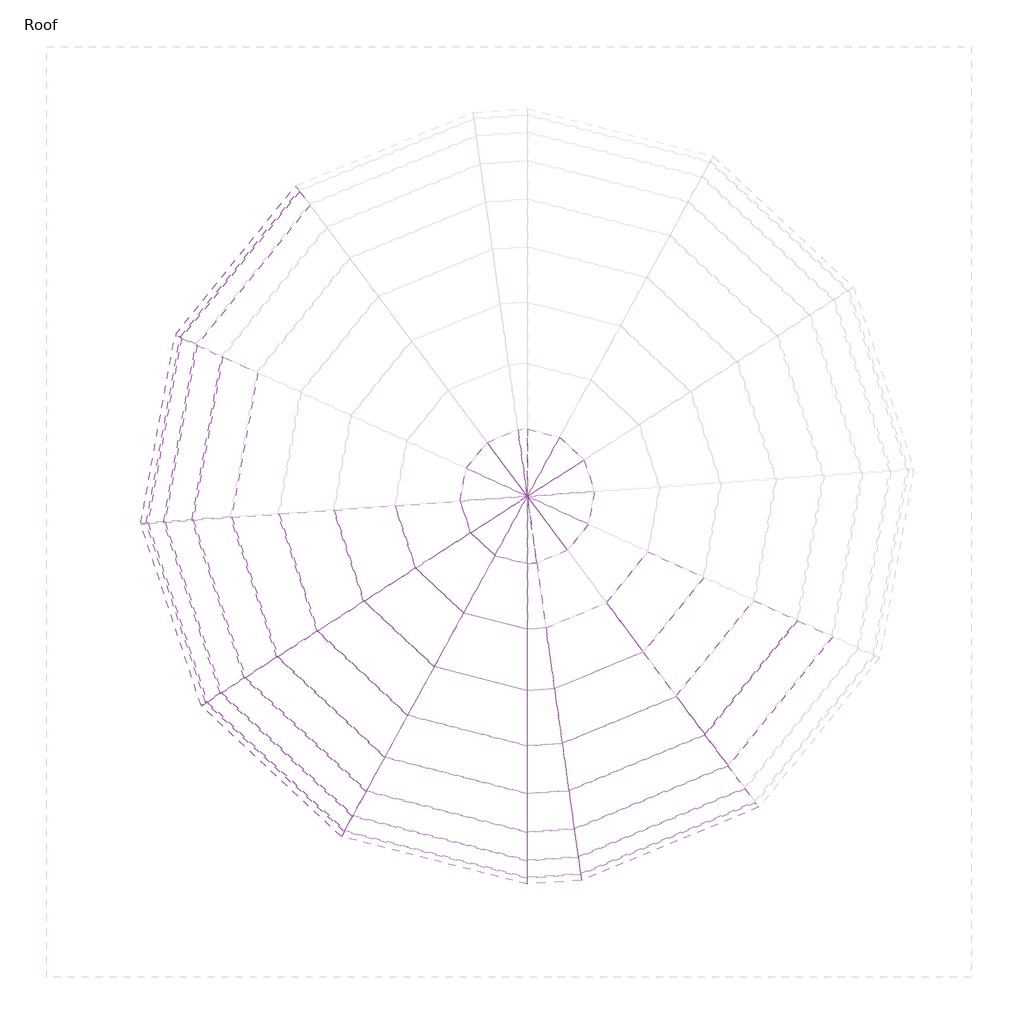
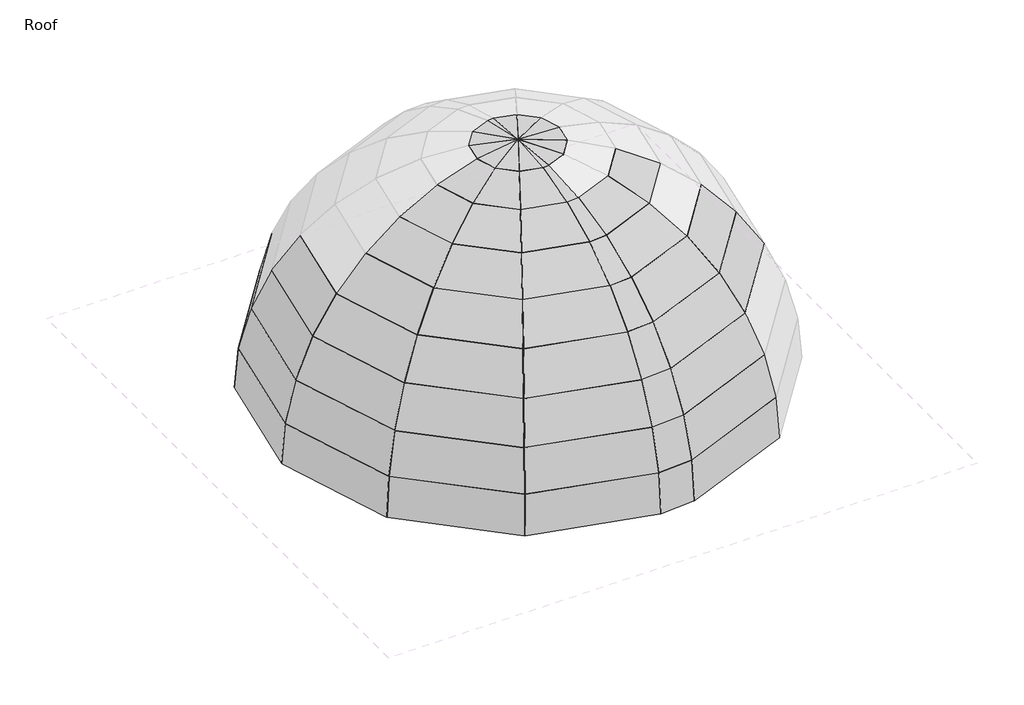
# One storey, part 1 of 2: 62 plates.
"""IFC4 building model written with IfcOpenShell, lengths in millimetres."""

from ifc_helpers import new_model, si_unit, origin, place, context, project, spatial, transform, mapped, element, save
from components import system_panel_glazed_2ed1c17a, system_panel_glazed_1428caac, system_panel_glazed_eae8c054, system_panel_glazed_1ae12ef8, system_panel_glazed_17d389aa, system_panel_glazed_e228eff2, system_panel_glazed_ea2c9918, system_panel_glazed_3e724de7, system_panel_glazed_405752de, system_panel_glazed_2f3c7a1b, system_panel_glazed_7985a11f, system_panel_glazed_b27e74bc, system_panel_glazed_a47debd1, system_panel_glazed_bc27ae0c, system_panel_glazed_ac83cff1, system_panel_glazed_0369cbda, system_panel_glazed_ca67373d, system_panel_glazed_91e01184, system_panel_glazed_642925df, system_panel_glazed_b00dac85, system_panel_glazed_7188ca77, system_panel_glazed_78ed8cde, system_panel_glazed_a47825d1, system_panel_glazed_b4261101, system_panel_glazed_62bcfb4b, system_panel_glazed_8d16cfce, system_panel_glazed_4963176a, system_panel_glazed_60e367e1, system_panel_glazed_c3d1ce98, system_panel_glazed_7ac646d2

model = new_model("IFC4")

# Units and contexts
model_context = context("Model", 3, world=origin())
ifc_project = project(units=[si_unit("LENGTHUNIT", "METRE", prefix="MILLI")], contexts=[model_context])

# Site, building, storey
site = spatial("IfcSite", under=ifc_project)
building = spatial("IfcBuilding", under=site)
storey = spatial("IfcBuildingStorey", under=building, Name="Roof", Elevation=15240.0)

# Plates
placement = place(None, origin())
system_panel_glazed_shape = system_panel_glazed_2ed1c17a(model_context)
element("IfcPlate", 1, ObjectType="System Panel : Glazed", at=placement, inside=storey, context=model_context, shape_type="MappedRepresentation", body=[
    mapped(system_panel_glazed_shape, transform((-3943.3113231, 2890.035499, 24284.9814476), x_axis=(0.9997503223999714, -0.0019551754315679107, 0.022259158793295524), y_axis=(0.02234486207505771, 0.08747815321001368, -0.9959157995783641), z_axis=(0.0, 0.9961645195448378, 0.08750000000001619))),
])
system_panel_glazed_2_shape = system_panel_glazed_1428caac(model_context)
element("IfcPlate", 2, ObjectType="System Panel : Glazed", at=placement, inside=storey, context=model_context, shape_type="MappedRepresentation", body=[
    mapped(system_panel_glazed_2_shape, transform((-3433.666199, 3953.9589454, 24378.1321672), x_axis=(0.9997503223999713, -0.001955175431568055, -0.022259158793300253), y_axis=(-0.022344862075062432, -0.08747815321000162, -0.9959157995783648), z_axis=(0.0, 0.9961645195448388, -0.08750000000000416))),
])
system_panel_glazed_3_shape = system_panel_glazed_eae8c054(model_context)
element("IfcPlate", 3, ObjectType="System Panel : Glazed", at=placement, inside=storey, context=model_context, shape_type="MappedRepresentation", body=[
    mapped(system_panel_glazed_3_shape, transform((-4136.3089427, 3019.466576, 24294.4601288), x_axis=(0.9981033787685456, -0.004073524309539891, 0.06142517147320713), y_axis=(0.0615600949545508, 0.0660460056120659, -0.9959157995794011), z_axis=(0.0, 0.997808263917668, 0.06617150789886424))),
])
system_panel_glazed_4_shape = system_panel_glazed_1ae12ef8(model_context)
element("IfcPlate", 4, ObjectType="System Panel : Glazed", at=placement, inside=storey, context=model_context, shape_type="MappedRepresentation", body=[
    mapped(system_panel_glazed_4_shape, transform((-4219.5906178, 3377.4778875, 24321.8924445), x_axis=(0.9963215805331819, -0.002445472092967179, 0.08565820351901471), y_axis=(0.08569310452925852, 0.0284325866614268, -0.9959157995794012), z_axis=(0.0, 0.99959272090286, 0.02853755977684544))),
])
system_panel_glazed_5_shape = system_panel_glazed_17d389aa(model_context)
element("IfcPlate", 5, ObjectType="System Panel : Glazed", at=placement, inside=storey, context=model_context, shape_type="MappedRepresentation", body=[
    mapped(system_panel_glazed_5_shape, transform((-4219.675809, 3878.3846804, 24337.8179619), x_axis=(0.9960466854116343, 0.001440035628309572, 0.08881963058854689), y_axis=(0.0888313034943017, -0.01614681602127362, -0.9959157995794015), z_axis=(0.0, 0.9998685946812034, -0.016210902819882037))),
])
system_panel_glazed_6_shape = system_panel_glazed_e228eff2(model_context)
element("IfcPlate", 6, ObjectType="System Panel : Glazed", at=placement, inside=storey, context=model_context, shape_type="MappedRepresentation", body=[
    mapped(system_panel_glazed_6_shape, transform((-4172.2467208, 3951.3630488, 24349.9483906), x_axis=(0.9975325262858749, 0.0039954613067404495, 0.07009204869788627), y_axis=(0.07020583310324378, -0.05677024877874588, -0.9959157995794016), z_axis=(0.0, 0.9983792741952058, -0.05691067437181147))),
])
system_panel_glazed_7_shape = system_panel_glazed_ea2c9918(model_context)
element("IfcPlate", 7, ObjectType="System Panel : Glazed", at=placement, inside=storey, context=model_context, shape_type="MappedRepresentation", body=[
    mapped(system_panel_glazed_7_shape, transform((-4006.2969325, 3953.3542544, 24372.9360211), x_axis=(0.9994088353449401, 0.002871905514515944, 0.034259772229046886), y_axis=(0.03437993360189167, -0.08348497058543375, -0.9959157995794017), z_axis=(0.0, 0.996504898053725, -0.08353435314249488))),
])
system_panel_glazed_8_shape = system_panel_glazed_3e724de7(model_context)
element("IfcPlate", 8, ObjectType="System Panel : Glazed", at=placement, inside=storey, context=model_context, shape_type="MappedRepresentation", body=[
    mapped(system_panel_glazed_8_shape, transform((-3762.9292933, 3954.7010811, 24383.3240147), x_axis=(0.9999810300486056, 0.0005389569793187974, 0.006135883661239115), y_axis=(0.006159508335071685, -0.08749834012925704, -0.9961456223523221), z_axis=(0.0, 0.9961645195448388, -0.08750000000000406))),
])
system_panel_glazed_9_shape = system_panel_glazed_405752de(model_context)
element("IfcPlate", 9, ObjectType="System Panel : Glazed", at=placement, inside=storey, context=model_context, shape_type="MappedRepresentation", body=[
    mapped(system_panel_glazed_9_shape, transform((-3943.3137997, 2954.6280359, 24290.655), x_axis=(-0.9688911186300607, 0.2474873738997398, 0.0), y_axis=(0.06622116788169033, 0.2592499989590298, -0.9635373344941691), z_axis=(-0.23846332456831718, -0.9335627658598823, -0.2675739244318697))),
])
element("IfcPlate", 10, ObjectType="System Panel : Glazed", at=placement, inside=storey, context=model_context, shape_type="MappedRepresentation", body=[
    mapped(system_panel_glazed_9_shape, transform((-4390.5317419, 3199.0443056, 24290.655), x_axis=(-0.7315127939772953, 0.6818277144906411, 0.0), y_axis=(0.18243931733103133, 0.19573374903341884, -0.9635373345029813), z_axis=(-0.6569664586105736, -0.7048398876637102, -0.26757392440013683))),
])
element("IfcPlate", 11, ObjectType="System Panel : Glazed", at=placement, inside=storey, context=model_context, shape_type="MappedRepresentation", body=[
    mapped(system_panel_glazed_9_shape, transform((-4665.7491534, 3627.9948584, 24290.655), x_axis=(-0.3149138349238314, 0.9491202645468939, 0.0), y_axis=(0.25395983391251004, 0.0842627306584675, -0.9635373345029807), z_axis=(-0.9145128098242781, -0.3034312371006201, -0.26757392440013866))),
])
system_panel_glazed_10_shape = system_panel_glazed_2f3c7a1b(model_context)
element("IfcPlate", 12, ObjectType="System Panel : Glazed", at=placement, inside=storey, context=model_context, shape_type="MappedRepresentation", body=[
    mapped(system_panel_glazed_10_shape, transform((-3614.047546, 2894.7774944, 24290.655), x_axis=(-0.9975313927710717, -0.0702219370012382, 0.0), y_axis=(-0.01828717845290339, 0.2597768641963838, -0.9654954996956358), z_axis=(0.06779896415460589, -0.9631120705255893, -0.2604197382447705))),
])
system_panel_glazed_11_shape = system_panel_glazed_7985a11f(model_context)
element("IfcPlate", 13, ObjectType="System Panel : Glazed", at=placement, inside=storey, context=model_context, shape_type="MappedRepresentation", body=[
    mapped(system_panel_glazed_11_shape, transform((-4190.3348215, 1987.5626443, 24013.4786906), x_axis=(-0.9688911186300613, 0.24748737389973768, 0.0), y_axis=(0.10772029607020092, 0.42171540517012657, -0.9003068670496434), z_axis=(-0.22281458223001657, -0.8722993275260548, -0.43525572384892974))),
])
element("IfcPlate", 14, ObjectType="System Panel : Glazed", at=placement, inside=storey, context=model_context, shape_type="MappedRepresentation", body=[
    mapped(system_panel_glazed_11_shape, transform((-5071.0746565, 2468.9099355, 24013.4786906), x_axis=(-0.7315127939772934, 0.6818277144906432, 0.0), y_axis=(0.2967694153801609, 0.31839513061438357, -0.9003068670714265), z_axis=(-0.6138541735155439, -0.658585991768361, -0.4352557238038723))),
])
element("IfcPlate", 15, ObjectType="System Panel : Glazed", at=placement, inside=storey, context=model_context, shape_type="MappedRepresentation", body=[
    mapped(system_panel_glazed_11_shape, transform((-5613.0809461, 3313.6744304, 24013.4786906), x_axis=(-0.31491383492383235, 0.9491202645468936, 0.0), y_axis=(0.41311002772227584, 0.1370680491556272, -0.9003068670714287), z_axis=(-0.8544994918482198, -0.28351908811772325, -0.4352557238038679))),
])
element("IfcPlate", 16, ObjectType="System Panel : Glazed", at=placement, inside=storey, context=model_context, shape_type="MappedRepresentation", body=[
    mapped(system_panel_glazed_11_shape, transform((-2111.7271479, 2677.2353219, 24013.4786906), x_axis=(-0.6287763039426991, -0.7775862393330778, 0.0), y_axis=(-0.33844886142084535, 0.2736784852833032, -0.9003068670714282), z_axis=(0.7000662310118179, -0.5660916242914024, -0.4352557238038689))),
])
element("IfcPlate", 17, ObjectType="System Panel : Glazed", at=placement, inside=storey, context=model_context, shape_type="MappedRepresentation", body=[
    mapped(system_panel_glazed_11_shape, transform((-2916.3455192, 2077.2460334, 24013.4786906), x_axis=(-0.9246633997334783, -0.38078550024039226, 0.0), y_axis=(-0.16573906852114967, 0.40246503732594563, -0.9003068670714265), z_axis=(0.3428238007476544, -0.8324808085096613, -0.4352557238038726))),
])
system_panel_glazed_12_shape = system_panel_glazed_b27e74bc(model_context)
element("IfcPlate", 18, ObjectType="System Panel : Glazed", at=placement, inside=storey, context=model_context, shape_type="MappedRepresentation", body=[
    mapped(system_panel_glazed_12_shape, transform((-3541.8860931, 1869.6944841, 24013.4786906), x_axis=(-0.9975313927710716, -0.07022193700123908, 0.0), y_axis=(-0.029847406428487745, 0.42399464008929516, -0.9051727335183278), z_axis=(0.06356298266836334, -0.9029382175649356, -0.4250439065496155))),
])
system_panel_glazed_13_shape = system_panel_glazed_a47debd1(model_context)
element("IfcPlate", 19, ObjectType="System Panel : Glazed", at=placement, inside=storey, context=model_context, shape_type="MappedRepresentation", body=[
    mapped(system_panel_glazed_13_shape, transform((-4421.9868077, 1080.665664, 23560.9595963), x_axis=(-0.9688911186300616, 0.24748737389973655, 0.0), y_axis=(0.14545294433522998, 0.5694353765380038, -0.8090653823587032), z_axis=(-0.20023346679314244, -0.783896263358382, -0.5877186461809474))),
])
element("IfcPlate", 20, ObjectType="System Panel : Glazed", at=placement, inside=storey, context=model_context, shape_type="MappedRepresentation", body=[
    mapped(system_panel_glazed_13_shape, transform((-5709.2758781, 1784.2027158, 23560.9595963), x_axis=(-0.7315127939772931, 0.6818277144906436, 0.0), y_axis=(0.40072286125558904, 0.42992370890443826, -0.8090653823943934), z_axis=(-0.5516432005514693, -0.5918416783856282, -0.5877186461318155))),
])
element("IfcPlate", 21, ObjectType="System Panel : Glazed", at=placement, inside=storey, context=model_context, shape_type="MappedRepresentation", body=[
    mapped(system_panel_glazed_13_shape, transform((-6501.4721032, 3018.9102402, 23560.9595963), x_axis=(-0.3149138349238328, 0.9491202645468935, 0.0), y_axis=(0.5578156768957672, 0.1850807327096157, -0.8090653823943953), z_axis=(-0.7679003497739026, -0.2547858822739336, -0.5877186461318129))),
])
element("IfcPlate", 22, ObjectType="System Panel : Glazed", at=placement, inside=storey, context=model_context, shape_type="MappedRepresentation", body=[
    mapped(system_panel_glazed_13_shape, transform((-2559.9244377, 1211.7468777, 23560.9595963), x_axis=(-0.9246633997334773, -0.38078550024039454, 0.0), y_axis=(-0.22379473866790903, 0.5434419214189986, -0.8090653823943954), z_axis=(0.3080803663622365, -0.7481131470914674, -0.5877186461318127))),
])
system_panel_glazed_14_shape = system_panel_glazed_bc27ae0c(model_context)
element("IfcPlate", 23, ObjectType="System Panel : Glazed", at=placement, inside=storey, context=model_context, shape_type="MappedRepresentation", body=[
    mapped(system_panel_glazed_14_shape, transform((-3474.214347, 908.3895975, 23560.9595963), x_axis=(-0.9975313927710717, -0.07022193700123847, 0.0), y_axis=(-0.04048348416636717, 0.5750844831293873, -0.8170917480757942), z_axis=(0.05737776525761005, -0.8150746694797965, -0.5765076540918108))),
])
system_panel_glazed_15_shape = system_panel_glazed_ac83cff1(model_context)
element("IfcPlate", 24, ObjectType="System Panel : Glazed", at=placement, inside=storey, context=model_context, shape_type="MappedRepresentation", body=[
    mapped(system_panel_glazed_15_shape, transform((-4631.1754163, 261.710815, 22946.9561144), x_axis=(-0.968891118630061, 0.24748737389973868, 0.0), y_axis=(0.17827728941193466, 0.6979397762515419, -0.6936117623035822), z_axis=(-0.17166015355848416, -0.6720342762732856, -0.7203490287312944))),
])
element("IfcPlate", 25, ObjectType="System Panel : Glazed", at=placement, inside=storey, context=model_context, shape_type="MappedRepresentation", body=[
    mapped(system_panel_glazed_15_shape, transform((-6285.5904942, 1165.8918052, 22946.9561144), x_axis=(-0.7315127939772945, 0.681827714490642, 0.0), y_axis=(0.49115393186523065, 0.5269445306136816, -0.6936117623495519), z_axis=(-0.4729237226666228, -0.5073858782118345, -0.7203490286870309))),
])
element("IfcPlate", 26, ObjectType="System Panel : Glazed", at=placement, inside=storey, context=model_context, shape_type="MappedRepresentation", body=[
    mapped(system_panel_glazed_15_shape, transform((-7303.7156455, 2752.7294411, 22946.9561144), x_axis=(-0.3149138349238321, 0.9491202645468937, 0.0), y_axis=(0.6836978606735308, 0.22684787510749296, -0.693611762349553), z_axis=(-0.6583209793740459, -0.21842794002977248, -0.7203490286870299))),
])
element("IfcPlate", 27, ObjectType="System Panel : Glazed", at=placement, inside=storey, context=model_context, shape_type="MappedRepresentation", body=[
    mapped(system_panel_glazed_15_shape, transform((-726.6400023, 1557.2181046, 22946.9561144), x_axis=(-0.6287763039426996, -0.7775862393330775, 0.0), y_axis=(-0.560133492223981, 0.45293839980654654, -0.6936117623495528), z_axis=(0.5393429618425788, -0.43612664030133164, -0.7203490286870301))),
])
element("IfcPlate", 28, ObjectType="System Panel : Glazed", at=placement, inside=storey, context=model_context, shape_type="MappedRepresentation", body=[
    mapped(system_panel_glazed_15_shape, transform((-2238.0656386, 430.1754911, 22946.9561144), x_axis=(-0.9246633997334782, -0.38078550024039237, 0.0), y_axis=(-0.2742984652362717, 0.6660803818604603, -0.6936117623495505), z_axis=(0.2641173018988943, -0.6413574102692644, -0.7203490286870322))),
])
system_panel_glazed_16_shape = system_panel_glazed_0369cbda(model_context)
element("IfcPlate", 29, ObjectType="System Panel : Glazed", at=placement, inside=storey, context=model_context, shape_type="MappedRepresentation", body=[
    mapped(system_panel_glazed_16_shape, transform((-3413.1047548, 40.3027966, 22946.9561144), x_axis=(-0.9975313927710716, -0.07022193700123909, 0.0), y_axis=(-0.04986973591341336, 0.7084200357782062, -0.7040270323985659), z_axis=(0.04943814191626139, -0.7022890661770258, -0.7101731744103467))),
])
system_panel_glazed_17_shape = system_panel_glazed_ca67373d(model_context)
element("IfcPlate", 30, ObjectType="System Panel : Glazed", at=placement, inside=storey, context=model_context, shape_type="MappedRepresentation", body=[
    mapped(system_panel_glazed_17_shape, transform((-4811.494246, -444.2214105, 22190.2721015), x_axis=(-0.9688911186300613, 0.24748737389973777, 0.0), y_axis=(0.20532451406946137, 0.8038272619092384, -0.5583041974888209), z_axis=(-0.13817323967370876, -0.5409359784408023, -0.829636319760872))),
])
element("IfcPlate", 31, ObjectType="System Panel : Glazed", at=placement, inside=storey, context=model_context, shape_type="MappedRepresentation", body=[
    mapped(system_panel_glazed_17_shape, transform((-6782.3688697, 632.9129753, 22190.2721015), x_axis=(-0.7315127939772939, 0.6818277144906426, 0.0), y_axis=(0.5656690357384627, 0.6068895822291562, -0.5583041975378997), z_axis=(-0.3806672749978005, -0.4084066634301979, -0.8296363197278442))),
])
element("IfcPlate", 32, ObjectType="System Panel : Glazed", at=placement, inside=storey, context=model_context, shape_type="MappedRepresentation", body=[
    mapped(system_panel_glazed_17_shape, transform((-7995.2428644, 2523.2838201, 22190.2721015), x_axis=(-0.31491383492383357, 0.9491202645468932, 0.0), y_axis=(0.7874246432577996, 0.2612639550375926, -0.5583041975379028), z_axis=(-0.5298978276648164, -0.1758177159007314, -0.8296363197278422))),
])
element("IfcPlate", 33, ObjectType="System Panel : Glazed", at=placement, inside=storey, context=model_context, shape_type="MappedRepresentation", body=[
    mapped(system_panel_glazed_17_shape, transform((-8152.9621038, 4763.7502671, 22190.2721015), x_axis=(0.17883901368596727, 0.9838783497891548, 0.0), y_axis=(0.8162612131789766, -0.14837134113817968, -0.5583041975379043), z_axis=(-0.5493034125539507, 0.09984657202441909, -0.8296363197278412))),
])
element("IfcPlate", 34, ObjectType="System Panel : Glazed", at=placement, inside=storey, context=model_context, shape_type="MappedRepresentation", body=[
    mapped(system_panel_glazed_17_shape, transform((-160.0921478, 1099.0928858, 22190.2721015), x_axis=(-0.6287763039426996, -0.7775862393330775, 0.0), y_axis=(-0.6451137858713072, 0.5216556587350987, -0.558304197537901), z_axis=(0.43412966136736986, -0.3510484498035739, -0.8296363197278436))),
])
element("IfcPlate", 35, ObjectType="System Panel : Glazed", at=placement, inside=storey, context=model_context, shape_type="MappedRepresentation", body=[
    mapped(system_panel_glazed_17_shape, transform((-1960.6260476, -243.5325027, 22190.2721015), x_axis=(-0.9246633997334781, -0.3807855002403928, 0.0), y_axis=(-0.3159134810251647, 0.7671343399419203, -0.5583041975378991), z_axis=(0.21259414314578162, -0.5162434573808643, -0.8296363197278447))),
])
system_panel_glazed_18_shape = system_panel_glazed_91e01184(model_context)
element("IfcPlate", 36, ObjectType="System Panel : Glazed", at=placement, inside=storey, context=model_context, shape_type="MappedRepresentation", body=[
    mapped(system_panel_glazed_18_shape, transform((-3360.4287977, -707.9807601, 22190.2721015), x_axis=(-0.9975313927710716, -0.07022193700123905, 0.0), y_axis=(-0.05772146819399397, 0.8199571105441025, -0.5695073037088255), z_axis=(0.03999190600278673, -0.5681014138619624, -0.8219862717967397))),
])
system_panel_glazed_19_shape = system_panel_glazed_642925df(model_context)
element("IfcPlate", 37, ObjectType="System Panel : Glazed", at=placement, inside=storey, context=model_context, shape_type="MappedRepresentation", body=[
    mapped(system_panel_glazed_19_shape, transform((-4957.4210327, -1015.5118381, 21314.0810055), x_axis=(-0.9688911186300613, 0.2474873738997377, 0.0), y_axis=(0.22598297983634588, 0.884703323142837, -0.4077152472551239), z_axis=(-0.1009043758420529, -0.39503168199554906, -0.9131091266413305))),
])
element("IfcPlate", 38, ObjectType="System Panel : Glazed", at=placement, inside=storey, context=model_context, shape_type="MappedRepresentation", body=[
    mapped(system_panel_glazed_19_shape, transform((-7184.3971669, 201.5887028, 21314.0810055), x_axis=(-0.7315127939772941, 0.6818277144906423, 0.0), y_axis=(0.6225831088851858, 0.6679510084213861, -0.4077152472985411), z_axis=(-0.27799155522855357, -0.2982489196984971, -0.9131091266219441))),
])
element("IfcPlate", 39, ObjectType="System Panel : Glazed", at=placement, inside=storey, context=model_context, shape_type="MappedRepresentation", body=[
    mapped(system_panel_glazed_19_shape, transform((-8554.8757389, 2337.6001494, 21314.0810055), x_axis=(-0.3149138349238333, 0.9491202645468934, 0.0), y_axis=(0.8666503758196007, 0.2875506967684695, -0.4077152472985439), z_axis=(-0.3869708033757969, -0.12839517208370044, -0.9131091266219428))),
])
element("IfcPlate", 40, ObjectType="System Panel : Glazed", at=placement, inside=storey, context=model_context, shape_type="MappedRepresentation", body=[
    mapped(system_panel_glazed_19_shape, transform((-8733.0895014, 4869.1996975, 21314.0810055), x_axis=(0.17883901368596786, 0.9838783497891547, 0.0), y_axis=(0.8983883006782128, -0.16329953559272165, -0.407715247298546), z_axis=(-0.40114220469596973, 0.07291539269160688, -0.913109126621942))),
])
element("IfcPlate", 41, ObjectType="System Panel : Glazed", at=placement, inside=storey, context=model_context, shape_type="MappedRepresentation", body=[
    mapped(system_panel_glazed_19_shape, transform((-1736.1022523, -788.7447963, 21314.0810055), x_axis=(-0.9246633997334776, -0.380785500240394, 0.0), y_axis=(-0.34769871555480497, 0.8443185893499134, -0.4077152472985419), z_axis=(0.15525205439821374, -0.37699936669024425, -0.9131091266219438))),
])
system_panel_glazed_20_shape = system_panel_glazed_b00dac85(model_context)
element("IfcPlate", 42, ObjectType="System Panel : Glazed", at=placement, inside=storey, context=model_context, shape_type="MappedRepresentation", body=[
    mapped(system_panel_glazed_20_shape, transform((-3317.7996771, -1313.5448887, 21314.0810055), x_axis=(-0.9975313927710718, -0.07022193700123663, 0.0), y_axis=(-0.06380293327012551, 0.9063468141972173, -0.417689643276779), z_axis=(0.029330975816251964, -0.41665853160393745, -0.9085897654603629))),
])
system_panel_glazed_21_shape = system_panel_glazed_7188ca77(model_context)
element("IfcPlate", 43, ObjectType="System Panel : Glazed", at=placement, inside=storey, context=model_context, shape_type="MappedRepresentation", body=[
    mapped(system_panel_glazed_21_shape, transform((-5064.4867687, -1434.6646983, 20345.2161787), x_axis=(-0.9688911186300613, 0.2474873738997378, 0.0), y_axis=(0.23985693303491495, 0.939018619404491, -0.2463994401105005), z_axis=(-0.06098075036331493, -0.2387342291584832, -0.9691683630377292))),
])
element("IfcPlate", 44, ObjectType="System Panel : Glazed", at=placement, inside=storey, context=model_context, shape_type="MappedRepresentation", body=[
    mapped(system_panel_glazed_21_shape, transform((-7479.3632691, -114.8717065, 20345.2161787), x_axis=(-0.7315127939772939, 0.6818277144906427, 0.0), y_axis=(0.6608058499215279, 0.7089590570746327, -0.2463994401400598), z_axis=(-0.16800196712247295, -0.18024434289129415, -0.9691683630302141))),
])
element("IfcPlate", 45, ObjectType="System Panel : Glazed", at=placement, inside=storey, context=model_context, shape_type="MappedRepresentation", body=[
    mapped(system_panel_glazed_21_shape, transform((-8965.4755122, 2201.3649914, 20345.2161787), x_axis=(-0.3149138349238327, 0.9491202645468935, 0.0), y_axis=(0.9198573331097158, 0.30520452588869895, -0.24639944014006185), z_axis=(-0.23386270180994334, -0.0775945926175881, -0.9691683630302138))),
])
element("IfcPlate", 46, ObjectType="System Panel : Glazed", at=placement, inside=storey, context=model_context, shape_type="MappedRepresentation", body=[
    mapped(system_panel_glazed_21_shape, transform((-9158.7260013, 4946.5674044, 20345.2161787), x_axis=(0.17883901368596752, 0.9838783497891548, 0.0), y_axis=(0.9535437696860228, -0.17332511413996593, -0.246399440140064), z_axis=(-0.242427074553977, 0.04406583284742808, -0.9691683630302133))),
])
element("IfcPlate", 47, ObjectType="System Panel : Glazed", at=placement, inside=storey, context=model_context, shape_type="MappedRepresentation", body=[
    mapped(system_panel_glazed_21_shape, transform((-8011.7683665, 7448.1609413, 20345.2161787), x_axis=(0.6287763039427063, 0.777586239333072, 0.0), y_axis=(0.7536119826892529, -0.6093901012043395, -0.2463994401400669), z_axis=(-0.191596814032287, 0.15493012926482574, -0.9691683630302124))),
])
element("IfcPlate", 48, ObjectType="System Panel : Glazed", at=placement, inside=storey, context=model_context, shape_type="MappedRepresentation", body=[
    mapped(system_panel_glazed_21_shape, transform((-1571.3702937, -1188.7642633, 20345.2161787), x_axis=(-0.9246633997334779, -0.3807855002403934, 0.0), y_axis=(-0.3690452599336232, 0.8961545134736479, -0.24639944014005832), z_axis=(0.09382533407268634, -0.22783654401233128, -0.9691683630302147))),
])
system_panel_glazed_22_shape = system_panel_glazed_78ed8cde(model_context)
element("IfcPlate", 49, ObjectType="System Panel : Glazed", at=placement, inside=storey, context=model_context, shape_type="MappedRepresentation", body=[
    mapped(system_panel_glazed_22_shape, transform((-3286.5229096, -1757.8441879, 20345.2161787), x_axis=(-0.9975313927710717, -0.07022193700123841, 0.0), y_axis=(-0.06793327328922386, 0.9650199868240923, -0.253222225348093), z_axis=(0.01778175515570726, -0.2525971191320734, -0.9674081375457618))),
])
system_panel_glazed_23_shape = system_panel_glazed_a47825d1(model_context)
element("IfcPlate", 50, ObjectType="System Panel : Glazed", at=placement, inside=storey, context=model_context, shape_type="MappedRepresentation", body=[
    mapped(system_panel_glazed_23_shape, transform((-5129.4125656, -1688.843435, 19313.3491064), x_axis=(-0.9688911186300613, 0.2474873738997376, 0.0), y_axis=(0.24665811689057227, 0.965644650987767, -0.08179352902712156), z_axis=(-0.020242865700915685, -0.07924902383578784, -0.996649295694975))),
])
element("IfcPlate", 51, ObjectType="System Panel : Glazed", at=placement, inside=storey, context=model_context, shape_type="MappedRepresentation", body=[
    mapped(system_panel_glazed_23_shape, transform((-7658.2338396, -306.7766525, 19313.3491064), x_axis=(-0.731512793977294, 0.6818277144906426, 0.0), y_axis=(0.6795431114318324, 0.7290617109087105, -0.08179352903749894), z_axis=(-0.055769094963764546, -0.05983301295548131, -0.9966492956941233))),
])
element("IfcPlate", 52, ObjectType="System Panel : Glazed", at=placement, inside=storey, context=model_context, shape_type="MappedRepresentation", body=[
    mapped(system_panel_glazed_23_shape, transform((-9214.4675663, 2118.7505478, 19313.3491064), x_axis=(-0.31491383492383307, 0.9491202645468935, 0.0), y_axis=(0.9459400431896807, 0.3138586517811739, -0.08179352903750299), z_axis=(-0.07763189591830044, -0.025757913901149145, -0.996649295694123))),
])
element("IfcPlate", 53, ObjectType="System Panel : Glazed", at=placement, inside=storey, context=model_context, shape_type="MappedRepresentation", body=[
    mapped(system_panel_glazed_23_shape, transform((-9416.8364857, 4993.4840018, 19313.3491064), x_axis=(0.17883901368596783, 0.9838783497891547, 0.0), y_axis=(0.980581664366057, -0.17823977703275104, -0.08179352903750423), z_axis=(-0.08047488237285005, 0.014627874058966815, -0.9966492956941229))),
])
element("IfcPlate", 54, ObjectType="System Panel : Glazed", at=placement, inside=storey, context=model_context, shape_type="MappedRepresentation", body=[
    mapped(system_panel_glazed_23_shape, transform((-8215.7602126, 7613.1140135, 19313.3491064), x_axis=(0.6287763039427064, 0.7775862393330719, 0.0), y_axis=(0.7749807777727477, -0.6266694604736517, -0.08179352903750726), z_axis=(-0.0636015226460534, 0.05142983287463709, -0.9966492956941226))),
])
element("IfcPlate", 55, ObjectType="System Panel : Glazed", at=placement, inside=storey, context=model_context, shape_type="MappedRepresentation", body=[
    mapped(system_panel_glazed_23_shape, transform((-1471.4750882, -1431.3403074, 19313.3491064), x_axis=(-0.9246633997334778, -0.38078550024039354, 0.0), y_axis=(-0.37950960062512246, 0.9215651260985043, -0.0817935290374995), z_axis=(0.031145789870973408, -0.07563148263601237, -0.9966492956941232))),
])
system_panel_glazed_24_shape = system_panel_glazed_b4261101(model_context)
element("IfcPlate", 56, ObjectType="System Panel : Glazed", at=placement, inside=storey, context=model_context, shape_type="MappedRepresentation", body=[
    mapped(system_panel_glazed_24_shape, transform((-3267.5563464, -2027.2719917, 19313.3491064), x_axis=(-0.9975313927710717, -0.0702219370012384, 0.0), y_axis=(-0.06997260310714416, 0.9939895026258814, -0.08419443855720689), z_axis=(0.005912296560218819, -0.083986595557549, -0.9964493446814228))),
])
system_panel_glazed_25_shape = system_panel_glazed_62bcfb4b(model_context)
element("IfcPlate", 57, ObjectType="System Panel : Glazed", at=placement, inside=storey, context=model_context, shape_type="MappedRepresentation", body=[
    mapped(system_panel_glazed_25_shape, transform((-3240.6685794, 3951.7834491, 24356.3497319), x_axis=(0.9981033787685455, -0.004073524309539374, -0.0614251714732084), y_axis=(-0.06156009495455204, -0.0660460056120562, -0.9959157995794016), z_axis=(0.0, 0.9978082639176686, -0.06617150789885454))),
])
system_panel_glazed_26_shape = system_panel_glazed_8d16cfce(model_context)
element("IfcPlate", 58, ObjectType="System Panel : Glazed", at=placement, inside=storey, context=model_context, shape_type="MappedRepresentation", body=[
    mapped(system_panel_glazed_26_shape, transform((-3157.3869043, 3951.1201048, 24338.3337196), x_axis=(0.9963215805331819, -0.0024454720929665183, -0.08565820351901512), y_axis=(-0.0856931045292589, -0.028432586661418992, -0.9959157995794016), z_axis=(0.0, 0.9995927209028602, -0.028537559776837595))),
])
system_panel_glazed_27_shape = system_panel_glazed_4963176a(model_context)
element("IfcPlate", 59, ObjectType="System Panel : Glazed", at=placement, inside=storey, context=model_context, shape_type="MappedRepresentation", body=[
    mapped(system_panel_glazed_27_shape, transform((-3157.3017131, 3508.70868, 24329.429378), x_axis=(0.9960466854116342, 0.0014400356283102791, -0.08881963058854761), y_axis=(-0.08883130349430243, 0.016146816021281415, -0.9959157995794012), z_axis=(0.0, 0.9998685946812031, 0.016210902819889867))),
])
system_panel_glazed_28_shape = system_panel_glazed_60e367e1(model_context)
element("IfcPlate", 60, ObjectType="System Panel : Glazed", at=placement, inside=storey, context=model_context, shape_type="MappedRepresentation", body=[
    mapped(system_panel_glazed_28_shape, transform((-3204.7308013, 3099.7094057, 24301.3009259), x_axis=(0.997532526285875, 0.0039954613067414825, -0.07009204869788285), y_axis=(-0.07020583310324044, 0.0567702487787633, -0.9959157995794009), z_axis=(0.0, 0.9983792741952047, 0.05691067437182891))),
])
system_panel_glazed_29_shape = system_panel_glazed_c3d1ce98(model_context)
element("IfcPlate", 61, ObjectType="System Panel : Glazed", at=placement, inside=storey, context=model_context, shape_type="MappedRepresentation", body=[
    mapped(system_panel_glazed_29_shape, transform((-3370.6805896, 2900.5032628, 24284.8642193), x_axis=(0.9994088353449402, 0.0028719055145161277, -0.03425977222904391), y_axis=(-0.034379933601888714, 0.08348497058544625, -0.9959157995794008), z_axis=(0.0, 0.996504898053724, 0.08353435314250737))),
])
system_panel_glazed_30_shape = system_panel_glazed_7ac646d2(model_context)
element("IfcPlate", 62, ObjectType="System Panel : Glazed", at=placement, inside=storey, context=model_context, shape_type="MappedRepresentation", body=[
    mapped(system_panel_glazed_30_shape, transform((-3614.0482288, 2889.5772727, 24290.1982329), x_axis=(0.9999810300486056, 0.0005389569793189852, -0.006135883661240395), y_axis=(-0.006159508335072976, 0.08749834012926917, -0.996145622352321), z_axis=(0.0, 0.9961645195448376, 0.08750000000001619))),
])

save(model, "model.ifc")
